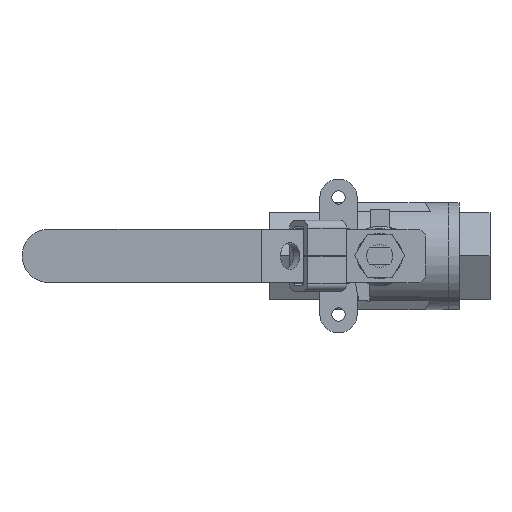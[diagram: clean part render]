
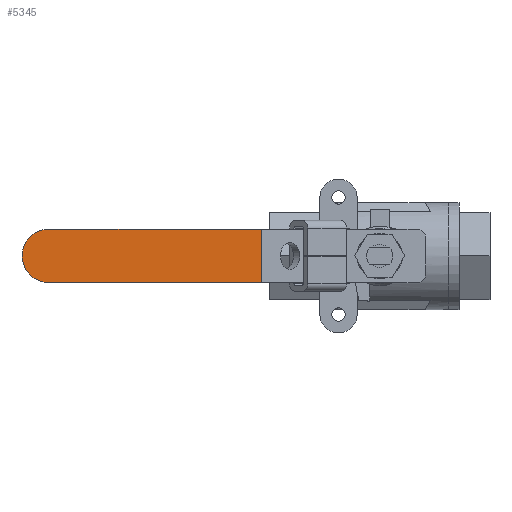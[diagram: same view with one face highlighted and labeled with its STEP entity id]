
A CAD part, top view. The second image highlights one B-rep face of the part: STEP entity #5345.
In plain terms, the highlighted planar face has unit normal (0, 0, 1).
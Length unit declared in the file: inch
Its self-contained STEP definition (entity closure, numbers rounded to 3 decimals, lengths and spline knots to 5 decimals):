
#5177=CARTESIAN_POINT('',(-2.5995,-0.315,2.2534));
#5178=VERTEX_POINT('',#5177);
#5185=CARTESIAN_POINT('',(-2.5995,0.315,2.2534));
#5186=VERTEX_POINT('',#5185);
#5187=CARTESIAN_POINT('',(-2.5995,0.,2.2534));
#5188=DIRECTION('',(0.0,0.0,1.0));
#5189=DIRECTION('',(-1.0,0.0,0.0));
#5190=AXIS2_PLACEMENT_3D('',#5187,#5188,#5189);
#5191=CIRCLE('',#5190,0.315);
#5192=EDGE_CURVE('',#5186,#5178,#5191,.T.);
#5249=CARTESIAN_POINT('',(-0.09184,-0.315,2.2534));
#5250=VERTEX_POINT('',#5249);
#5257=CARTESIAN_POINT('',(-2.5995,-0.315,2.2534));
#5258=DIRECTION('',(1.0,0.0,0.0));
#5259=VECTOR('',#5258,2.50766);
#5260=LINE('',#5257,#5259);
#5261=EDGE_CURVE('',#5178,#5250,#5260,.T.);
#5272=CARTESIAN_POINT('',(-0.09184,0.315,2.2534));
#5273=VERTEX_POINT('',#5272);
#5274=CARTESIAN_POINT('',(-0.09184,0.315,2.2534));
#5275=DIRECTION('',(-1.0,0.0,0.0));
#5276=VECTOR('',#5275,2.50766);
#5277=LINE('',#5274,#5276);
#5278=EDGE_CURVE('',#5273,#5186,#5277,.T.);
#5329=CARTESIAN_POINT('',(-0.09184,-0.315,2.2534));
#5330=DIRECTION('',(0.0,0.0,1.0));
#5331=DIRECTION('',(1.0,0.0,0.0));
#5332=AXIS2_PLACEMENT_3D('',#5329,#5330,#5331);
#5333=PLANE('',#5332);
#5334=ORIENTED_EDGE('',*,*,#5192,.T.);
#5335=ORIENTED_EDGE('',*,*,#5261,.T.);
#5336=CARTESIAN_POINT('',(-0.09184,-0.315,2.2534));
#5337=DIRECTION('',(0.0,1.0,0.0));
#5338=VECTOR('',#5337,0.63);
#5339=LINE('',#5336,#5338);
#5340=EDGE_CURVE('',#5250,#5273,#5339,.T.);
#5341=ORIENTED_EDGE('',*,*,#5340,.T.);
#5342=ORIENTED_EDGE('',*,*,#5278,.T.);
#5343=EDGE_LOOP('',(#5334,#5335,#5341,#5342));
#5344=FACE_OUTER_BOUND('',#5343,.T.);
#5345=ADVANCED_FACE('',(#5344),#5333,.T.);
